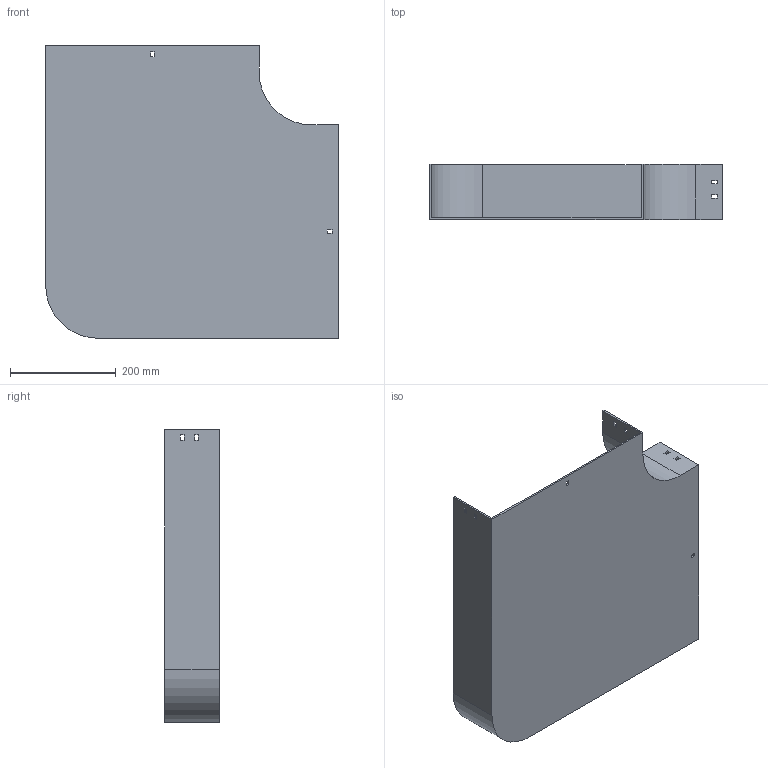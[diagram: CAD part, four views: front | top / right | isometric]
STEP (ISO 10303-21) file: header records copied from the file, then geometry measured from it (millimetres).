
FILE_DESCRIPTION (( 'STEP AP214' ), '1' );
FILE_NAME ('10B1D400.step', '2025-02-21T09:39:43', ( '' ), ( '' ), 'SwSTEP 2.0', 'SolidWorks 2023', '' );
FILE_SCHEMA (( 'AUTOMOTIVE_DESIGN' ));
Length unit declared in the file: millimetre
Products named in the file (1): 10B1D400
Bounding box: 554 x 104 x 554 mm (x, y, z)
Volume: 1458156 mm3; surface area: 843263.6 mm2
Topology: 1 solids, 1 shells, 58 faces, 168 edges, 112 vertices
Faces by surface type: plane 54, cylinder 4
Entity records: 1943 total; most frequent: CARTESIAN_POINT 339, ORIENTED_EDGE 336, DIRECTION 294, EDGE_CURVE 168, VECTOR 160, LINE 160, VERTEX_POINT 112, EDGE_LOOP 78
